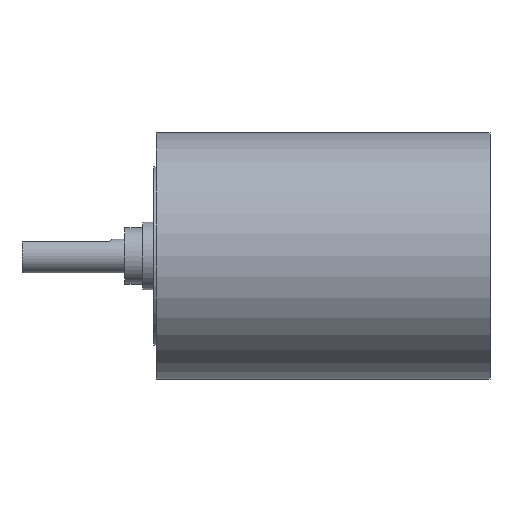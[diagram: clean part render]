
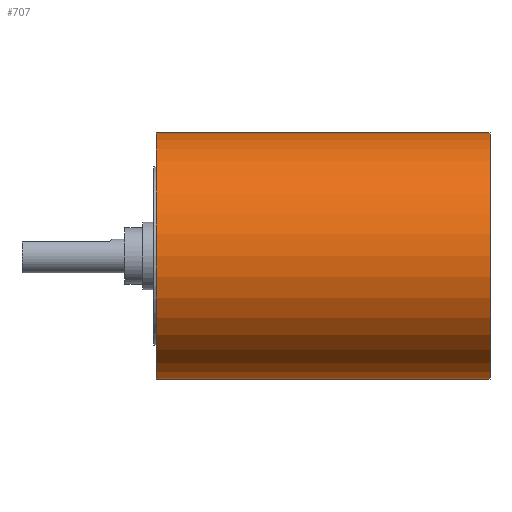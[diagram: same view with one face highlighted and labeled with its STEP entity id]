
A CAD part, top view. The second image highlights one B-rep face of the part: STEP entity #707.
In plain terms, the highlighted cylindrical face has radius 11 mm (diameter 22 mm), a partial arc.
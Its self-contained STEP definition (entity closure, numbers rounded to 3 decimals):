
#6=CARTESIAN_POINT('',(0.2,0.,0.));
#7=DIRECTION('',(1.,0.,0.));
#8=DIRECTION('',(0.,1.,0.));
#9=AXIS2_PLACEMENT_3D('',#6,#7,#8);
#221=DIRECTION('',(-1.,0.,0.));
#222=VECTOR('',#221,29.75);
#223=CARTESIAN_POINT('',(29.95,11.,0.));
#224=LINE('',#223,#222);
#225=DIRECTION('',(-1.,0.,0.));
#226=VECTOR('',#225,29.75);
#227=CARTESIAN_POINT('',(29.95,-11.,0.));
#228=LINE('',#227,#226);
#234=CARTESIAN_POINT('',(29.95,0.,0.));
#235=DIRECTION('',(1.,0.,0.));
#236=DIRECTION('',(0.,1.,0.));
#237=AXIS2_PLACEMENT_3D('',#234,#235,#236);
#275=CARTESIAN_POINT('',(29.95,11.,0.));
#276=CARTESIAN_POINT('',(0.2,11.,0.));
#277=VERTEX_POINT('',#275);
#278=VERTEX_POINT('',#276);
#291=CARTESIAN_POINT('',(29.95,-11.,0.));
#292=CARTESIAN_POINT('',(0.2,-11.,0.));
#293=VERTEX_POINT('',#291);
#294=VERTEX_POINT('',#292);
#695=CARTESIAN_POINT('',(-11.75,0.,0.));
#696=DIRECTION('',(1.,0.,0.));
#697=DIRECTION('',(0.,-1.,0.));
#698=AXIS2_PLACEMENT_3D('',#695,#696,#697);
#699=CYLINDRICAL_SURFACE('',#698,11.);
#700=ORIENTED_EDGE('',*,*,#685,.F.);
#702=ORIENTED_EDGE('',*,*,#701,.T.);
#703=ORIENTED_EDGE('',*,*,#688,.T.);
#704=ORIENTED_EDGE('',*,*,#349,.F.);
#705=EDGE_LOOP('',(#700,#702,#703,#704));
#706=FACE_OUTER_BOUND('',#705,.F.);
#707=ADVANCED_FACE('',(#706),#699,.T.);
#10=CIRCLE('',#9,11.);
#238=CIRCLE('',#237,11.);
#349=EDGE_CURVE('',#278,#294,#10,.T.);
#685=EDGE_CURVE('',#277,#278,#224,.T.);
#688=EDGE_CURVE('',#293,#294,#228,.T.);
#701=EDGE_CURVE('',#277,#293,#238,.T.);
